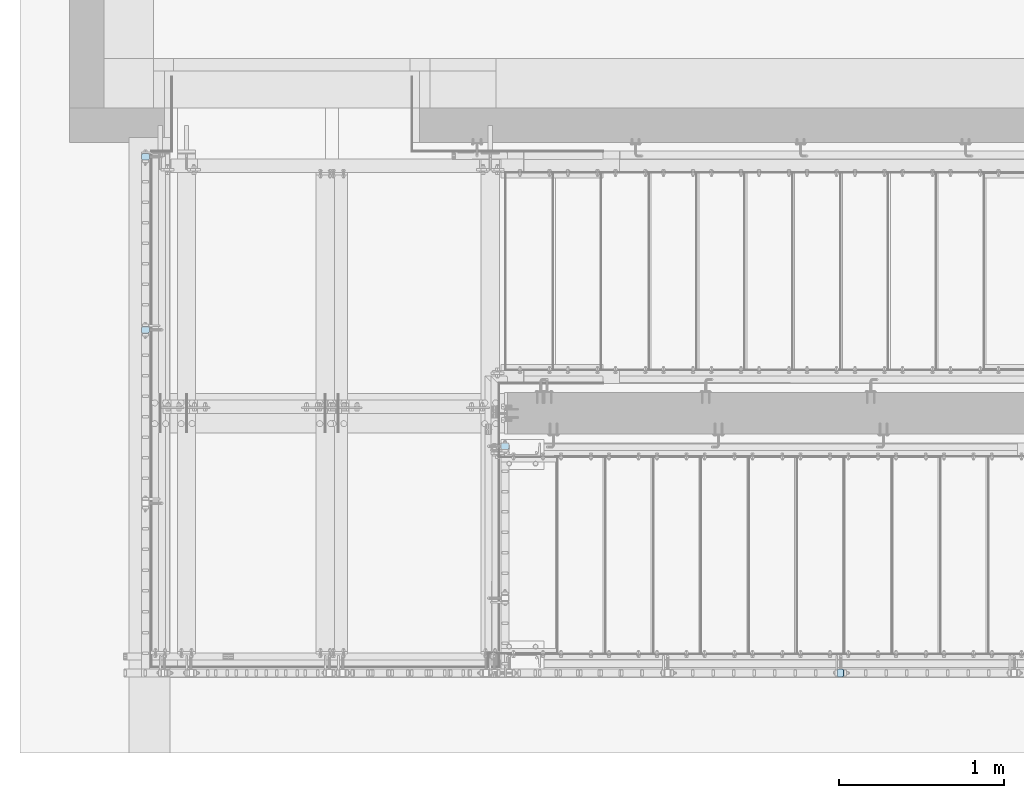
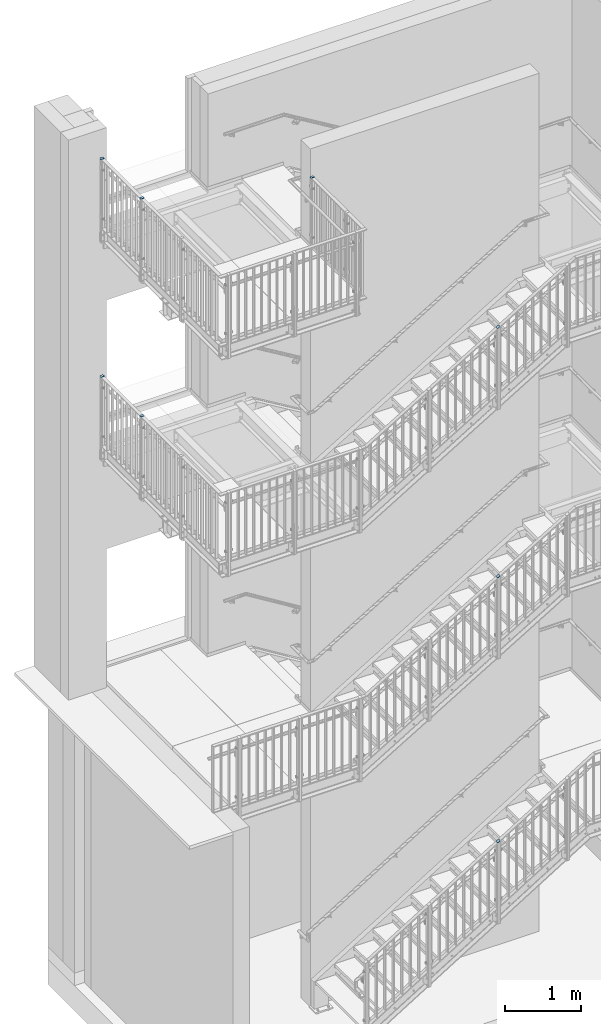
# One storey, part 70 of 410: 8 plates, 32 openings.
"""IFC2X3 building model written with IfcOpenShell, lengths in millimetres."""

from ifc_helpers import new_model, entity, si_unit, converted_unit, point, frame, frame_2d, origin, origin_with_axes, place, context, project, spatial, polyline, circle_curve, line_curve, trimmed, segment, composite_curve, outline, extrude, material, layer, layer_set, element, save


model = new_model("IFC2X3")

# Units and contexts
model_context = context("Model", 3, precision=1e-09, world=origin_with_axes())
ifc_project = project(units=[si_unit("LENGTHUNIT", "METRE", prefix="MILLI"), si_unit("AREAUNIT", "SQUARE_METRE"), si_unit("VOLUMEUNIT", "CUBIC_METRE"), converted_unit("PLANEANGLEUNIT", "DEGREE", entity("IfcPlaneAngleMeasure", 0.01745329), si_unit("PLANEANGLEUNIT", "RADIAN"), dimensions=[0, 0, 0, 0, 0, 0, 0])], contexts=[model_context])

# Site, building, storey
site_placement = place(None, origin_with_axes())
site = spatial("IfcSite", under=ifc_project, at=site_placement, Name="mKR Teilneubau & Sanierung BA1 - Ostfildern", CompositionType="ELEMENT")
building_placement = place(site_placement, origin_with_axes())
building = spatial("IfcBuilding", under=site, at=building_placement, Name="Struktur 1", CompositionType="ELEMENT")
storey_placement = place(building_placement, origin_with_axes())
storey = spatial("IfcBuildingStorey", under=building, at=storey_placement, Name="Default Storey", CompositionType="ELEMENT", Elevation=0.0)

# Plate, openings
ifc_material = material(Name="S235JR")
ifc_layer = layer(ifc_material, 5.0)
ifc_layer_set = layer_set([ifc_layer], Name="S235JR")
plate_1_placement = place(None, frame((-3899.9485317, 17484.999999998, 5095.0), z_axis=(0.0, 0.0, 1.0), x_axis=(1.0, 0.0, 0.0)))
plate_1 = element("IfcPlate", 1, at=plate_1_placement, inside=storey, material=ifc_layer_set, Name="-", ObjectType="-", context=model_context, shape_type="SweptSolid", body=[
    extrude(outline(polyline([(-25.0, -20.0), (25.0, -20.0), (25.0, 20.0), (-25.0, 20.0), (-25.0, -20.0)])), origin_with_axes(), (0.0, 0.0, 1.0), 5.0),
])
opening_1_placement = place(plate_1_placement, frame((0.0, 0.0, -0.01), z_axis=(0.0, 0.0, 1.0), x_axis=(1.0, 0.0, 0.0)))
element("IfcOpeningElement", 2, at=opening_1_placement, cuts=plate_1, ObjectType="Opening", context=model_context, shape_type="SweptSolid", body=[
    extrude(outline(composite_curve([segment(trimmed(line_curve((25.0, -20.0), (0.0, 1.0), 8.0), [point((25.0, -20.0))], [point((25.0, -12.0))], True, "CARTESIAN"), True, "CONTINUOUS"), segment(trimmed(circle_curve(frame_2d((17.0, -12.0), x_axis=(-1.0, 0.0)), 8.0), [point((25.0, -12.0))], [point((17.0, -20.0))], False, "CARTESIAN"), True, "CONTINUOUS"), segment(trimmed(line_curve((17.0, -20.0), (1.0, 0.0), 8.0), [point((17.0, -20.0))], [point((25.0, -20.0))], True, "CARTESIAN"), True, "CONTINUOUS")], self_intersect=False)), origin(), (0.0, 0.0, 1.0), 5.02),
])
opening_2_placement = place(plate_1_placement, frame((0.0, 0.0, -0.01), z_axis=(0.0, 0.0, 1.0), x_axis=(1.0, 0.0, 0.0)))
element("IfcOpeningElement", 3, at=opening_2_placement, cuts=plate_1, ObjectType="Opening", context=model_context, shape_type="SweptSolid", body=[
    extrude(outline(composite_curve([segment(trimmed(line_curve((25.0, 20.0), (-1.0, 0.0), 8.0), [point((25.0, 20.0))], [point((17.0, 20.0))], True, "CARTESIAN"), True, "CONTINUOUS"), segment(trimmed(circle_curve(frame_2d((17.0, 12.0), x_axis=(-1.0, 0.0)), 8.0), [point((17.0, 20.0))], [point((25.0, 12.0))], False, "CARTESIAN"), True, "CONTINUOUS"), segment(trimmed(line_curve((25.0, 12.0), (0.0, 1.0), 8.0), [point((25.0, 12.0))], [point((25.0, 20.0))], True, "CARTESIAN"), True, "CONTINUOUS")], self_intersect=False)), origin(), (0.0, 0.0, 1.0), 5.02),
])
opening_3_placement = place(plate_1_placement, frame((0.0, 0.0, -0.01), z_axis=(0.0, 0.0, 1.0), x_axis=(1.0, 0.0, 0.0)))
element("IfcOpeningElement", 4, at=opening_3_placement, cuts=plate_1, ObjectType="Opening", context=model_context, shape_type="SweptSolid", body=[
    extrude(outline(composite_curve([segment(trimmed(line_curve((-25.0, -20.0), (1.0, 0.0), 8.0), [point((-25.0, -20.0))], [point((-17.0, -20.0))], True, "CARTESIAN"), True, "CONTINUOUS"), segment(trimmed(circle_curve(frame_2d((-17.0, -12.0), x_axis=(-1.0, 0.0)), 8.0), [point((-17.0, -20.0))], [point((-25.0, -12.0))], False, "CARTESIAN"), True, "CONTINUOUS"), segment(trimmed(line_curve((-25.0, -12.0), (0.0, -1.0), 8.0), [point((-25.0, -12.0))], [point((-25.0, -20.0))], True, "CARTESIAN"), True, "CONTINUOUS")], self_intersect=False)), origin(), (0.0, 0.0, 1.0), 5.02),
])
opening_4_placement = place(plate_1_placement, frame((0.0, 0.0, -0.01), z_axis=(0.0, 0.0, 1.0), x_axis=(1.0, 0.0, 0.0)))
element("IfcOpeningElement", 5, at=opening_4_placement, cuts=plate_1, ObjectType="Opening", context=model_context, shape_type="SweptSolid", body=[
    extrude(outline(composite_curve([segment(trimmed(line_curve((-25.0, 20.0), (0.0, -1.0), 8.0), [point((-25.0, 20.0))], [point((-25.0, 12.0))], True, "CARTESIAN"), True, "CONTINUOUS"), segment(trimmed(circle_curve(frame_2d((-17.0, 12.0), x_axis=(-1.0, 0.0)), 8.0), [point((-25.0, 12.0))], [point((-17.0, 20.0))], False, "CARTESIAN"), True, "CONTINUOUS"), segment(trimmed(line_curve((-17.0, 20.0), (-1.0, 0.0), 8.0), [point((-17.0, 20.0))], [point((-25.0, 20.0))], True, "CARTESIAN"), True, "CONTINUOUS")], self_intersect=False)), origin(), (0.0, 0.0, 1.0), 5.02),
])

plate_2_placement = place(None, frame((-3899.9485317, 18534.999999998, 5095.0), z_axis=(0.0, 0.0, 1.0), x_axis=(1.0, 0.0, 0.0)))
plate_2 = element("IfcPlate", 6, at=plate_2_placement, inside=storey, material=ifc_layer_set, Name="-", ObjectType="-", context=model_context, shape_type="SweptSolid", body=[
    extrude(outline(polyline([(-25.0, -20.0), (25.0, -20.0), (25.0, 20.0), (-25.0, 20.0), (-25.0, -20.0)])), origin_with_axes(), (0.0, 0.0, 1.0), 5.0),
])
opening_5_placement = place(plate_2_placement, frame((0.0, 0.0, -0.01), z_axis=(0.0, 0.0, 1.0), x_axis=(1.0, 0.0, 0.0)))
element("IfcOpeningElement", 7, at=opening_5_placement, cuts=plate_2, ObjectType="Opening", context=model_context, shape_type="SweptSolid", body=[
    extrude(outline(composite_curve([segment(trimmed(line_curve((25.0, 20.0), (-1.0, 0.0), 8.0), [point((25.0, 20.0))], [point((17.0, 20.0))], True, "CARTESIAN"), True, "CONTINUOUS"), segment(trimmed(circle_curve(frame_2d((17.0, 12.0), x_axis=(-1.0, 0.0)), 8.0), [point((17.0, 20.0))], [point((25.0, 12.0))], False, "CARTESIAN"), True, "CONTINUOUS"), segment(trimmed(line_curve((25.0, 12.0), (0.0, 1.0), 8.0), [point((25.0, 12.0))], [point((25.0, 20.0))], True, "CARTESIAN"), True, "CONTINUOUS")], self_intersect=False)), origin(), (0.0, 0.0, 1.0), 5.02),
])
opening_6_placement = place(plate_2_placement, frame((0.0, 0.0, -0.01), z_axis=(0.0, 0.0, 1.0), x_axis=(1.0, 0.0, 0.0)))
element("IfcOpeningElement", 8, at=opening_6_placement, cuts=plate_2, ObjectType="Opening", context=model_context, shape_type="SweptSolid", body=[
    extrude(outline(composite_curve([segment(trimmed(line_curve((25.0, -20.0), (0.0, 1.0), 8.0), [point((25.0, -20.0))], [point((25.0, -12.0))], True, "CARTESIAN"), True, "CONTINUOUS"), segment(trimmed(circle_curve(frame_2d((17.0, -12.0), x_axis=(-1.0, 0.0)), 8.0), [point((25.0, -12.0))], [point((17.0, -20.0))], False, "CARTESIAN"), True, "CONTINUOUS"), segment(trimmed(line_curve((17.0, -20.0), (1.0, 0.0), 8.0), [point((17.0, -20.0))], [point((25.0, -20.0))], True, "CARTESIAN"), True, "CONTINUOUS")], self_intersect=False)), origin(), (0.0, 0.0, 1.0), 5.02),
])
opening_7_placement = place(plate_2_placement, frame((0.0, 0.0, -0.01), z_axis=(0.0, 0.0, 1.0), x_axis=(1.0, 0.0, 0.0)))
element("IfcOpeningElement", 9, at=opening_7_placement, cuts=plate_2, ObjectType="Opening", context=model_context, shape_type="SweptSolid", body=[
    extrude(outline(composite_curve([segment(trimmed(line_curve((-25.0, -20.0), (1.0, 0.0), 8.0), [point((-25.0, -20.0))], [point((-17.0, -20.0))], True, "CARTESIAN"), True, "CONTINUOUS"), segment(trimmed(circle_curve(frame_2d((-17.0, -12.0), x_axis=(-1.0, 0.0)), 8.0), [point((-17.0, -20.0))], [point((-25.0, -12.0))], False, "CARTESIAN"), True, "CONTINUOUS"), segment(trimmed(line_curve((-25.0, -12.0), (0.0, -1.0), 8.0), [point((-25.0, -12.0))], [point((-25.0, -20.0))], True, "CARTESIAN"), True, "CONTINUOUS")], self_intersect=False)), origin(), (0.0, 0.0, 1.0), 5.02),
])
opening_8_placement = place(plate_2_placement, frame((0.0, 0.0, -0.01), z_axis=(0.0, 0.0, 1.0), x_axis=(1.0, 0.0, 0.0)))
element("IfcOpeningElement", 10, at=opening_8_placement, cuts=plate_2, ObjectType="Opening", context=model_context, shape_type="SweptSolid", body=[
    extrude(outline(composite_curve([segment(trimmed(line_curve((-25.0, 20.0), (0.0, -1.0), 8.0), [point((-25.0, 20.0))], [point((-25.0, 12.0))], True, "CARTESIAN"), True, "CONTINUOUS"), segment(trimmed(circle_curve(frame_2d((-17.0, 12.0), x_axis=(-1.0, 0.0)), 8.0), [point((-25.0, 12.0))], [point((-17.0, 20.0))], False, "CARTESIAN"), True, "CONTINUOUS"), segment(trimmed(line_curve((-17.0, 20.0), (-1.0, 0.0), 8.0), [point((-17.0, 20.0))], [point((-25.0, 20.0))], True, "CARTESIAN"), True, "CONTINUOUS")], self_intersect=False)), origin(), (0.0, 0.0, 1.0), 5.02),
])

plate_3_placement = place(None, frame((-3899.9485317, 18534.999999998, 8595.0), z_axis=(0.0, 0.0, 1.0), x_axis=(1.0, 0.0, 0.0)))
plate_3 = element("IfcPlate", 11, at=plate_3_placement, inside=storey, material=ifc_layer_set, Name="-", ObjectType="-", context=model_context, shape_type="SweptSolid", body=[
    extrude(outline(polyline([(-25.0, -20.0), (25.0, -20.0), (25.0, 20.0), (-25.0, 20.0), (-25.0, -20.0)])), origin_with_axes(), (0.0, 0.0, 1.0), 5.0),
])
opening_9_placement = place(plate_3_placement, frame((0.0, 0.0, -0.01), z_axis=(0.0, 0.0, 1.0), x_axis=(1.0, 0.0, 0.0)))
element("IfcOpeningElement", 12, at=opening_9_placement, cuts=plate_3, ObjectType="Opening", context=model_context, shape_type="SweptSolid", body=[
    extrude(outline(composite_curve([segment(trimmed(line_curve((-25.0, 20.0), (0.0, -1.0), 8.0), [point((-25.0, 20.0))], [point((-25.0, 12.0))], True, "CARTESIAN"), True, "CONTINUOUS"), segment(trimmed(circle_curve(frame_2d((-17.0, 12.0), x_axis=(-1.0, 0.0)), 8.0), [point((-25.0, 12.0))], [point((-17.0, 20.0))], False, "CARTESIAN"), True, "CONTINUOUS"), segment(trimmed(line_curve((-17.0, 20.0), (-1.0, 0.0), 8.0), [point((-17.0, 20.0))], [point((-25.0, 20.0))], True, "CARTESIAN"), True, "CONTINUOUS")], self_intersect=False)), origin(), (0.0, 0.0, 1.0), 5.02),
])
opening_10_placement = place(plate_3_placement, frame((0.0, 0.0, -0.01), z_axis=(0.0, 0.0, 1.0), x_axis=(1.0, 0.0, 0.0)))
element("IfcOpeningElement", 13, at=opening_10_placement, cuts=plate_3, ObjectType="Opening", context=model_context, shape_type="SweptSolid", body=[
    extrude(outline(composite_curve([segment(trimmed(line_curve((25.0, 20.0), (-1.0, 0.0), 8.0), [point((25.0, 20.0))], [point((17.0, 20.0))], True, "CARTESIAN"), True, "CONTINUOUS"), segment(trimmed(circle_curve(frame_2d((17.0, 12.0), x_axis=(-1.0, 0.0)), 8.0), [point((17.0, 20.0))], [point((25.0, 12.0))], False, "CARTESIAN"), True, "CONTINUOUS"), segment(trimmed(line_curve((25.0, 12.0), (0.0, 1.0), 8.0), [point((25.0, 12.0))], [point((25.0, 20.0))], True, "CARTESIAN"), True, "CONTINUOUS")], self_intersect=False)), origin(), (0.0, 0.0, 1.0), 5.02),
])
opening_11_placement = place(plate_3_placement, frame((0.0, 0.0, -0.01), z_axis=(0.0, 0.0, 1.0), x_axis=(1.0, 0.0, 0.0)))
element("IfcOpeningElement", 14, at=opening_11_placement, cuts=plate_3, ObjectType="Opening", context=model_context, shape_type="SweptSolid", body=[
    extrude(outline(composite_curve([segment(trimmed(line_curve((25.0, -20.0), (0.0, 1.0), 8.0), [point((25.0, -20.0))], [point((25.0, -12.0))], True, "CARTESIAN"), True, "CONTINUOUS"), segment(trimmed(circle_curve(frame_2d((17.0, -12.0), x_axis=(-1.0, 0.0)), 8.0), [point((25.0, -12.0))], [point((17.0, -20.0))], False, "CARTESIAN"), True, "CONTINUOUS"), segment(trimmed(line_curve((17.0, -20.0), (1.0, 0.0), 8.0), [point((17.0, -20.0))], [point((25.0, -20.0))], True, "CARTESIAN"), True, "CONTINUOUS")], self_intersect=False)), origin(), (0.0, 0.0, 1.0), 5.02),
])
opening_12_placement = place(plate_3_placement, frame((0.0, 0.0, -0.01), z_axis=(0.0, 0.0, 1.0), x_axis=(1.0, 0.0, 0.0)))
element("IfcOpeningElement", 15, at=opening_12_placement, cuts=plate_3, ObjectType="Opening", context=model_context, shape_type="SweptSolid", body=[
    extrude(outline(composite_curve([segment(trimmed(line_curve((-25.0, -20.0), (1.0, 0.0), 8.0), [point((-25.0, -20.0))], [point((-17.0, -20.0))], True, "CARTESIAN"), True, "CONTINUOUS"), segment(trimmed(circle_curve(frame_2d((-17.0, -12.0), x_axis=(-1.0, 0.0)), 8.0), [point((-17.0, -20.0))], [point((-25.0, -12.0))], False, "CARTESIAN"), True, "CONTINUOUS"), segment(trimmed(line_curve((-25.0, -12.0), (0.0, -1.0), 8.0), [point((-25.0, -12.0))], [point((-25.0, -20.0))], True, "CARTESIAN"), True, "CONTINUOUS")], self_intersect=False)), origin(), (0.0, 0.0, 1.0), 5.02),
])

plate_4_placement = place(None, frame((-3899.9485317, 17484.999999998, 8595.0), z_axis=(0.0, 0.0, 1.0), x_axis=(1.0, 0.0, 0.0)))
plate_4 = element("IfcPlate", 16, at=plate_4_placement, inside=storey, material=ifc_layer_set, Name="-", ObjectType="-", context=model_context, shape_type="SweptSolid", body=[
    extrude(outline(polyline([(-25.0, -20.0), (25.0, -20.0), (25.0, 20.0), (-25.0, 20.0), (-25.0, -20.0)])), origin_with_axes(), (0.0, 0.0, 1.0), 5.0),
])
opening_13_placement = place(plate_4_placement, frame((0.0, 0.0, -0.01), z_axis=(0.0, 0.0, 1.0), x_axis=(1.0, 0.0, 0.0)))
element("IfcOpeningElement", 17, at=opening_13_placement, cuts=plate_4, ObjectType="Opening", context=model_context, shape_type="SweptSolid", body=[
    extrude(outline(composite_curve([segment(trimmed(line_curve((25.0, 20.0), (-1.0, 0.0), 8.0), [point((25.0, 20.0))], [point((17.0, 20.0))], True, "CARTESIAN"), True, "CONTINUOUS"), segment(trimmed(circle_curve(frame_2d((17.0, 12.0), x_axis=(-1.0, 0.0)), 8.0), [point((17.0, 20.0))], [point((25.0, 12.0))], False, "CARTESIAN"), True, "CONTINUOUS"), segment(trimmed(line_curve((25.0, 12.0), (0.0, 1.0), 8.0), [point((25.0, 12.0))], [point((25.0, 20.0))], True, "CARTESIAN"), True, "CONTINUOUS")], self_intersect=False)), origin(), (0.0, 0.0, 1.0), 5.02),
])
opening_14_placement = place(plate_4_placement, frame((0.0, 0.0, -0.01), z_axis=(0.0, 0.0, 1.0), x_axis=(1.0, 0.0, 0.0)))
element("IfcOpeningElement", 18, at=opening_14_placement, cuts=plate_4, ObjectType="Opening", context=model_context, shape_type="SweptSolid", body=[
    extrude(outline(composite_curve([segment(trimmed(line_curve((25.0, -20.0), (0.0, 1.0), 8.0), [point((25.0, -20.0))], [point((25.0, -12.0))], True, "CARTESIAN"), True, "CONTINUOUS"), segment(trimmed(circle_curve(frame_2d((17.0, -12.0), x_axis=(-1.0, 0.0)), 8.0), [point((25.0, -12.0))], [point((17.0, -20.0))], False, "CARTESIAN"), True, "CONTINUOUS"), segment(trimmed(line_curve((17.0, -20.0), (1.0, 0.0), 8.0), [point((17.0, -20.0))], [point((25.0, -20.0))], True, "CARTESIAN"), True, "CONTINUOUS")], self_intersect=False)), origin(), (0.0, 0.0, 1.0), 5.02),
])
opening_15_placement = place(plate_4_placement, frame((0.0, 0.0, -0.01), z_axis=(0.0, 0.0, 1.0), x_axis=(1.0, 0.0, 0.0)))
element("IfcOpeningElement", 19, at=opening_15_placement, cuts=plate_4, ObjectType="Opening", context=model_context, shape_type="SweptSolid", body=[
    extrude(outline(composite_curve([segment(trimmed(line_curve((-25.0, -20.0), (1.0, 0.0), 8.0), [point((-25.0, -20.0))], [point((-17.0, -20.0))], True, "CARTESIAN"), True, "CONTINUOUS"), segment(trimmed(circle_curve(frame_2d((-17.0, -12.0), x_axis=(-1.0, 0.0)), 8.0), [point((-17.0, -20.0))], [point((-25.0, -12.0))], False, "CARTESIAN"), True, "CONTINUOUS"), segment(trimmed(line_curve((-25.0, -12.0), (0.0, -1.0), 8.0), [point((-25.0, -12.0))], [point((-25.0, -20.0))], True, "CARTESIAN"), True, "CONTINUOUS")], self_intersect=False)), origin(), (0.0, 0.0, 1.0), 5.02),
])
opening_16_placement = place(plate_4_placement, frame((0.0, 0.0, -0.01), z_axis=(0.0, 0.0, 1.0), x_axis=(1.0, 0.0, 0.0)))
element("IfcOpeningElement", 20, at=opening_16_placement, cuts=plate_4, ObjectType="Opening", context=model_context, shape_type="SweptSolid", body=[
    extrude(outline(composite_curve([segment(trimmed(line_curve((-25.0, 20.0), (0.0, -1.0), 8.0), [point((-25.0, 20.0))], [point((-25.0, 12.0))], True, "CARTESIAN"), True, "CONTINUOUS"), segment(trimmed(circle_curve(frame_2d((-17.0, 12.0), x_axis=(-1.0, 0.0)), 8.0), [point((-25.0, 12.0))], [point((-17.0, 20.0))], False, "CARTESIAN"), True, "CONTINUOUS"), segment(trimmed(line_curve((-17.0, 20.0), (-1.0, 0.0), 8.0), [point((-17.0, 20.0))], [point((-25.0, 20.0))], True, "CARTESIAN"), True, "CONTINUOUS")], self_intersect=False)), origin(), (0.0, 0.0, 1.0), 5.02),
])

plate_5_placement = place(None, frame((-1720.0485317, 16780.0, 8595.0), z_axis=(0.0, 0.0, 1.0), x_axis=(-1.0, 0.0, 0.0)))
plate_5 = element("IfcPlate", 21, at=plate_5_placement, inside=storey, material=ifc_layer_set, Name="-", ObjectType="-", context=model_context, shape_type="SweptSolid", body=[
    extrude(outline(polyline([(-25.0, -20.0), (25.0, -20.0), (25.0, 20.0), (-25.0, 20.0), (-25.0, -20.0)])), origin_with_axes(), (0.0, 0.0, 1.0), 5.0),
])
opening_17_placement = place(plate_5_placement, frame((0.0, 0.0, -0.01), z_axis=(0.0, 0.0, 1.0), x_axis=(1.0, 0.0, 0.0)))
element("IfcOpeningElement", 22, at=opening_17_placement, cuts=plate_5, ObjectType="Opening", context=model_context, shape_type="SweptSolid", body=[
    extrude(outline(composite_curve([segment(trimmed(line_curve((25.0, -20.0), (0.0, 1.0), 8.0), [point((25.0, -20.0))], [point((25.0, -12.0))], True, "CARTESIAN"), True, "CONTINUOUS"), segment(trimmed(circle_curve(frame_2d((17.0, -12.0), x_axis=(-1.0, 0.0)), 8.0), [point((25.0, -12.0))], [point((17.0, -20.0))], False, "CARTESIAN"), True, "CONTINUOUS"), segment(trimmed(line_curve((17.0, -20.0), (1.0, 0.0), 8.0), [point((17.0, -20.0))], [point((25.0, -20.0))], True, "CARTESIAN"), True, "CONTINUOUS")], self_intersect=False)), origin(), (0.0, 0.0, 1.0), 5.02),
])
opening_18_placement = place(plate_5_placement, frame((0.0, 0.0, -0.01), z_axis=(0.0, 0.0, 1.0), x_axis=(1.0, 0.0, 0.0)))
element("IfcOpeningElement", 23, at=opening_18_placement, cuts=plate_5, ObjectType="Opening", context=model_context, shape_type="SweptSolid", body=[
    extrude(outline(composite_curve([segment(trimmed(line_curve((-25.0, -20.0), (1.0, 0.0), 8.0), [point((-25.0, -20.0))], [point((-17.0, -20.0))], True, "CARTESIAN"), True, "CONTINUOUS"), segment(trimmed(circle_curve(frame_2d((-17.0, -12.0), x_axis=(-1.0, 0.0)), 8.0), [point((-17.0, -20.0))], [point((-25.0, -12.0))], False, "CARTESIAN"), True, "CONTINUOUS"), segment(trimmed(line_curve((-25.0, -12.0), (0.0, -1.0), 8.0), [point((-25.0, -12.0))], [point((-25.0, -20.0))], True, "CARTESIAN"), True, "CONTINUOUS")], self_intersect=False)), origin(), (0.0, 0.0, 1.0), 5.02),
])
opening_19_placement = place(plate_5_placement, frame((0.0, 0.0, -0.01), z_axis=(0.0, 0.0, 1.0), x_axis=(1.0, 0.0, 0.0)))
element("IfcOpeningElement", 24, at=opening_19_placement, cuts=plate_5, ObjectType="Opening", context=model_context, shape_type="SweptSolid", body=[
    extrude(outline(composite_curve([segment(trimmed(line_curve((-25.0, 20.0), (0.0, -1.0), 8.0), [point((-25.0, 20.0))], [point((-25.0, 12.0))], True, "CARTESIAN"), True, "CONTINUOUS"), segment(trimmed(circle_curve(frame_2d((-17.0, 12.0), x_axis=(-1.0, 0.0)), 8.0), [point((-25.0, 12.0))], [point((-17.0, 20.0))], False, "CARTESIAN"), True, "CONTINUOUS"), segment(trimmed(line_curve((-17.0, 20.0), (-1.0, 0.0), 8.0), [point((-17.0, 20.0))], [point((-25.0, 20.0))], True, "CARTESIAN"), True, "CONTINUOUS")], self_intersect=False)), origin(), (0.0, 0.0, 1.0), 5.02),
])
opening_20_placement = place(plate_5_placement, frame((0.0, 0.0, -0.01), z_axis=(0.0, 0.0, 1.0), x_axis=(1.0, 0.0, 0.0)))
element("IfcOpeningElement", 25, at=opening_20_placement, cuts=plate_5, ObjectType="Opening", context=model_context, shape_type="SweptSolid", body=[
    extrude(outline(composite_curve([segment(trimmed(line_curve((25.0, 20.0), (-1.0, 0.0), 8.0), [point((25.0, 20.0))], [point((17.0, 20.0))], True, "CARTESIAN"), True, "CONTINUOUS"), segment(trimmed(circle_curve(frame_2d((17.0, 12.0), x_axis=(-1.0, 0.0)), 8.0), [point((17.0, 20.0))], [point((25.0, 12.0))], False, "CARTESIAN"), True, "CONTINUOUS"), segment(trimmed(line_curve((25.0, 12.0), (0.0, 1.0), 8.0), [point((25.0, 12.0))], [point((25.0, 20.0))], True, "CARTESIAN"), True, "CONTINUOUS")], self_intersect=False)), origin(), (0.0, 0.0, 1.0), 5.02),
])

plate_6_placement = place(None, frame((314.997400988, 15405.999999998, -1951.64107921), z_axis=(-0.524817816, 0.0, 0.851214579), x_axis=(0.0, 1.0, 0.0)))
plate_6 = element("IfcPlate", 26, at=plate_6_placement, inside=storey, material=ifc_layer_set, Name="-", ObjectType="-", context=model_context, shape_type="SweptSolid", body=[
    extrude(outline(polyline([(-25.0, -23.5), (25.0, -23.5), (25.0, 23.5), (-25.0, 23.5), (-25.0, -23.5)])), origin_with_axes(), (0.0, 0.0, 1.0), 5.0),
])
opening_21_placement = place(plate_6_placement, frame((0.0, -3.5, -0.01), z_axis=(0.0, 0.0, 1.0), x_axis=(1.0, 0.0, 0.0)))
element("IfcOpeningElement", 27, at=opening_21_placement, cuts=plate_6, ObjectType="Opening", context=model_context, shape_type="SweptSolid", body=[
    extrude(outline(composite_curve([segment(trimmed(line_curve((25.0, -20.0), (0.0, 1.0), 9.0), [point((25.0, -20.0))], [point((25.0, -11.0))], True, "CARTESIAN"), True, "CONTINUOUS"), segment(trimmed(circle_curve(frame_2d((16.0, -11.0), x_axis=(-1.0, 0.0)), 9.0), [point((25.0, -11.0))], [point((16.0, -20.0))], False, "CARTESIAN"), True, "CONTINUOUS"), segment(trimmed(line_curve((16.0, -20.0), (1.0, 0.0), 9.0), [point((16.0, -20.0))], [point((25.0, -20.0))], True, "CARTESIAN"), True, "CONTINUOUS")], self_intersect=False)), origin(), (0.0, 0.0, 1.0), 5.02),
])
opening_22_placement = place(plate_6_placement, frame((0.0, -3.5, -0.01), z_axis=(0.0, 0.0, 1.0), x_axis=(1.0, 0.0, 0.0)))
element("IfcOpeningElement", 28, at=opening_22_placement, cuts=plate_6, ObjectType="Opening", context=model_context, shape_type="SweptSolid", body=[
    extrude(outline(composite_curve([segment(trimmed(line_curve((-25.0, -20.0), (1.0, 0.0), 9.0), [point((-25.0, -20.0))], [point((-16.0, -20.0))], True, "CARTESIAN"), True, "CONTINUOUS"), segment(trimmed(circle_curve(frame_2d((-16.0, -11.0), x_axis=(-1.0, 0.0)), 9.0), [point((-16.0, -20.0))], [point((-25.0, -11.0))], False, "CARTESIAN"), True, "CONTINUOUS"), segment(trimmed(line_curve((-25.0, -11.0), (0.0, -1.0), 9.0), [point((-25.0, -11.0))], [point((-25.0, -20.0))], True, "CARTESIAN"), True, "CONTINUOUS")], self_intersect=False)), origin(), (0.0, 0.0, 1.0), 5.02),
])
opening_23_placement = place(plate_6_placement, frame((0.0, -3.5, -0.01), z_axis=(0.0, 0.0, 1.0), x_axis=(1.0, 0.0, 0.0)))
element("IfcOpeningElement", 29, at=opening_23_placement, cuts=plate_6, ObjectType="Opening", context=model_context, shape_type="SweptSolid", body=[
    extrude(outline(composite_curve([segment(trimmed(line_curve((-25.0, 27.0), (0.0, -1.0), 9.0), [point((-25.0, 27.0))], [point((-25.0, 18.0))], True, "CARTESIAN"), True, "CONTINUOUS"), segment(trimmed(circle_curve(frame_2d((-16.0, 18.0), x_axis=(-1.0, 0.0)), 9.0), [point((-25.0, 18.0))], [point((-16.0, 27.0))], False, "CARTESIAN"), True, "CONTINUOUS"), segment(trimmed(line_curve((-16.0, 27.0), (-1.0, 0.0), 9.0), [point((-16.0, 27.0))], [point((-25.0, 27.0))], True, "CARTESIAN"), True, "CONTINUOUS")], self_intersect=False)), origin(), (0.0, 0.0, 1.0), 5.02),
])
opening_24_placement = place(plate_6_placement, frame((0.0, -3.5, -0.01), z_axis=(0.0, 0.0, 1.0), x_axis=(1.0, 0.0, 0.0)))
element("IfcOpeningElement", 30, at=opening_24_placement, cuts=plate_6, ObjectType="Opening", context=model_context, shape_type="SweptSolid", body=[
    extrude(outline(composite_curve([segment(trimmed(line_curve((25.0, 27.0), (-1.0, 0.0), 9.0), [point((25.0, 27.0))], [point((16.0, 27.0))], True, "CARTESIAN"), True, "CONTINUOUS"), segment(trimmed(circle_curve(frame_2d((16.0, 18.0), x_axis=(-1.0, 0.0)), 9.0), [point((16.0, 27.0))], [point((25.0, 18.0))], False, "CARTESIAN"), True, "CONTINUOUS"), segment(trimmed(line_curve((25.0, 18.0), (0.0, 1.0), 9.0), [point((25.0, 18.0))], [point((25.0, 27.0))], True, "CARTESIAN"), True, "CONTINUOUS")], self_intersect=False)), origin(), (0.0, 0.0, 1.0), 5.02),
])

plate_7_placement = place(None, frame((314.847719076, 15405.999999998, 2305.471633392), z_axis=(-0.51430666, 0.0, 0.857606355), x_axis=(0.0, 1.0, 0.0)))
plate_7 = element("IfcPlate", 31, at=plate_7_placement, inside=storey, material=ifc_layer_set, Name="-", ObjectType="-", context=model_context, shape_type="SweptSolid", body=[
    extrude(outline(polyline([(-25.0, -23.5), (25.0, -23.5), (25.0, 23.5), (-25.0, 23.5), (-25.0, -23.5)])), origin_with_axes(), (0.0, 0.0, 1.0), 5.0),
])
opening_25_placement = place(plate_7_placement, frame((0.0, -3.5, -0.01), z_axis=(0.0, 0.0, 1.0), x_axis=(1.0, 0.0, 0.0)))
element("IfcOpeningElement", 32, at=opening_25_placement, cuts=plate_7, ObjectType="Opening", context=model_context, shape_type="SweptSolid", body=[
    extrude(outline(composite_curve([segment(trimmed(line_curve((-25.0, 27.0), (0.0, -1.0), 9.0), [point((-25.0, 27.0))], [point((-25.0, 18.0))], True, "CARTESIAN"), True, "CONTINUOUS"), segment(trimmed(circle_curve(frame_2d((-16.0, 18.0), x_axis=(-1.0, 0.0)), 9.0), [point((-25.0, 18.0))], [point((-16.0, 27.0))], False, "CARTESIAN"), True, "CONTINUOUS"), segment(trimmed(line_curve((-16.0, 27.0), (-1.0, 0.0), 9.0), [point((-16.0, 27.0))], [point((-25.0, 27.0))], True, "CARTESIAN"), True, "CONTINUOUS")], self_intersect=False)), origin(), (0.0, 0.0, 1.0), 5.02),
])
opening_26_placement = place(plate_7_placement, frame((0.0, -3.5, -0.01), z_axis=(0.0, 0.0, 1.0), x_axis=(1.0, 0.0, 0.0)))
element("IfcOpeningElement", 33, at=opening_26_placement, cuts=plate_7, ObjectType="Opening", context=model_context, shape_type="SweptSolid", body=[
    extrude(outline(composite_curve([segment(trimmed(line_curve((-25.0, -20.0), (1.0, 0.0), 9.0), [point((-25.0, -20.0))], [point((-16.0, -20.0))], True, "CARTESIAN"), True, "CONTINUOUS"), segment(trimmed(circle_curve(frame_2d((-16.0, -11.0), x_axis=(-1.0, 0.0)), 9.0), [point((-16.0, -20.0))], [point((-25.0, -11.0))], False, "CARTESIAN"), True, "CONTINUOUS"), segment(trimmed(line_curve((-25.0, -11.0), (0.0, -1.0), 9.0), [point((-25.0, -11.0))], [point((-25.0, -20.0))], True, "CARTESIAN"), True, "CONTINUOUS")], self_intersect=False)), origin(), (0.0, 0.0, 1.0), 5.02),
])
opening_27_placement = place(plate_7_placement, frame((0.0, -3.5, -0.01), z_axis=(0.0, 0.0, 1.0), x_axis=(1.0, 0.0, 0.0)))
element("IfcOpeningElement", 34, at=opening_27_placement, cuts=plate_7, ObjectType="Opening", context=model_context, shape_type="SweptSolid", body=[
    extrude(outline(composite_curve([segment(trimmed(line_curve((25.0, -20.0), (0.0, 1.0), 9.0), [point((25.0, -20.0))], [point((25.0, -11.0))], True, "CARTESIAN"), True, "CONTINUOUS"), segment(trimmed(circle_curve(frame_2d((16.0, -11.0), x_axis=(-1.0, 0.0)), 9.0), [point((25.0, -11.0))], [point((16.0, -20.0))], False, "CARTESIAN"), True, "CONTINUOUS"), segment(trimmed(line_curve((16.0, -20.0), (1.0, 0.0), 9.0), [point((16.0, -20.0))], [point((25.0, -20.0))], True, "CARTESIAN"), True, "CONTINUOUS")], self_intersect=False)), origin(), (0.0, 0.0, 1.0), 5.02),
])
opening_28_placement = place(plate_7_placement, frame((0.0, -3.5, -0.01), z_axis=(0.0, 0.0, 1.0), x_axis=(1.0, 0.0, 0.0)))
element("IfcOpeningElement", 35, at=opening_28_placement, cuts=plate_7, ObjectType="Opening", context=model_context, shape_type="SweptSolid", body=[
    extrude(outline(composite_curve([segment(trimmed(line_curve((25.0, 27.0), (-1.0, 0.0), 9.0), [point((25.0, 27.0))], [point((16.0, 27.0))], True, "CARTESIAN"), True, "CONTINUOUS"), segment(trimmed(circle_curve(frame_2d((16.0, 18.0), x_axis=(-1.0, 0.0)), 9.0), [point((16.0, 27.0))], [point((25.0, 18.0))], False, "CARTESIAN"), True, "CONTINUOUS"), segment(trimmed(line_curve((25.0, 18.0), (0.0, 1.0), 9.0), [point((25.0, 18.0))], [point((25.0, 27.0))], True, "CARTESIAN"), True, "CONTINUOUS")], self_intersect=False)), origin(), (0.0, 0.0, 1.0), 5.02),
])

plate_8_placement = place(None, frame((314.881058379, 15405.999999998, 6313.052732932), z_axis=(-0.516664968, 0.0, 0.856187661), x_axis=(0.0, 1.0, 0.0)))
plate_8 = element("IfcPlate", 36, at=plate_8_placement, inside=storey, material=ifc_layer_set, Name="-", ObjectType="-", context=model_context, shape_type="SweptSolid", body=[
    extrude(outline(polyline([(-25.0, -23.5), (25.0, -23.5), (25.0, 23.5), (-25.0, 23.5), (-25.0, -23.5)])), origin_with_axes(), (0.0, 0.0, 1.0), 5.0),
])
opening_29_placement = place(plate_8_placement, frame((0.0, -3.5, -0.01), z_axis=(0.0, 0.0, 1.0), x_axis=(1.0, 0.0, 0.0)))
element("IfcOpeningElement", 37, at=opening_29_placement, cuts=plate_8, ObjectType="Opening", context=model_context, shape_type="SweptSolid", body=[
    extrude(outline(composite_curve([segment(trimmed(line_curve((25.0, 27.0), (-1.0, 0.0), 9.0), [point((25.0, 27.0))], [point((16.0, 27.0))], True, "CARTESIAN"), True, "CONTINUOUS"), segment(trimmed(circle_curve(frame_2d((16.0, 18.0), x_axis=(-1.0, 0.0)), 9.0), [point((16.0, 27.0))], [point((25.0, 18.0))], False, "CARTESIAN"), True, "CONTINUOUS"), segment(trimmed(line_curve((25.0, 18.0), (0.0, 1.0), 9.0), [point((25.0, 18.0))], [point((25.0, 27.0))], True, "CARTESIAN"), True, "CONTINUOUS")], self_intersect=False)), origin(), (0.0, 0.0, 1.0), 5.02),
])
opening_30_placement = place(plate_8_placement, frame((0.0, -3.5, -0.01), z_axis=(0.0, 0.0, 1.0), x_axis=(1.0, 0.0, 0.0)))
element("IfcOpeningElement", 38, at=opening_30_placement, cuts=plate_8, ObjectType="Opening", context=model_context, shape_type="SweptSolid", body=[
    extrude(outline(composite_curve([segment(trimmed(line_curve((25.0, -20.0), (0.0, 1.0), 9.0), [point((25.0, -20.0))], [point((25.0, -11.0))], True, "CARTESIAN"), True, "CONTINUOUS"), segment(trimmed(circle_curve(frame_2d((16.0, -11.0), x_axis=(-1.0, 0.0)), 9.0), [point((25.0, -11.0))], [point((16.0, -20.0))], False, "CARTESIAN"), True, "CONTINUOUS"), segment(trimmed(line_curve((16.0, -20.0), (1.0, 0.0), 9.0), [point((16.0, -20.0))], [point((25.0, -20.0))], True, "CARTESIAN"), True, "CONTINUOUS")], self_intersect=False)), origin(), (0.0, 0.0, 1.0), 5.02),
])
opening_31_placement = place(plate_8_placement, frame((0.0, -3.5, -0.01), z_axis=(0.0, 0.0, 1.0), x_axis=(1.0, 0.0, 0.0)))
element("IfcOpeningElement", 39, at=opening_31_placement, cuts=plate_8, ObjectType="Opening", context=model_context, shape_type="SweptSolid", body=[
    extrude(outline(composite_curve([segment(trimmed(line_curve((-25.0, -20.0), (1.0, 0.0), 9.0), [point((-25.0, -20.0))], [point((-16.0, -20.0))], True, "CARTESIAN"), True, "CONTINUOUS"), segment(trimmed(circle_curve(frame_2d((-16.0, -11.0), x_axis=(-1.0, 0.0)), 9.0), [point((-16.0, -20.0))], [point((-25.0, -11.0))], False, "CARTESIAN"), True, "CONTINUOUS"), segment(trimmed(line_curve((-25.0, -11.0), (0.0, -1.0), 9.0), [point((-25.0, -11.0))], [point((-25.0, -20.0))], True, "CARTESIAN"), True, "CONTINUOUS")], self_intersect=False)), origin(), (0.0, 0.0, 1.0), 5.02),
])
opening_32_placement = place(plate_8_placement, frame((0.0, -3.5, -0.01), z_axis=(0.0, 0.0, 1.0), x_axis=(1.0, 0.0, 0.0)))
element("IfcOpeningElement", 40, at=opening_32_placement, cuts=plate_8, ObjectType="Opening", context=model_context, shape_type="SweptSolid", body=[
    extrude(outline(composite_curve([segment(trimmed(line_curve((-25.0, 27.0), (0.0, -1.0), 9.0), [point((-25.0, 27.0))], [point((-25.0, 18.0))], True, "CARTESIAN"), True, "CONTINUOUS"), segment(trimmed(circle_curve(frame_2d((-16.0, 18.0), x_axis=(-1.0, 0.0)), 9.0), [point((-25.0, 18.0))], [point((-16.0, 27.0))], False, "CARTESIAN"), True, "CONTINUOUS"), segment(trimmed(line_curve((-16.0, 27.0), (-1.0, 0.0), 9.0), [point((-16.0, 27.0))], [point((-25.0, 27.0))], True, "CARTESIAN"), True, "CONTINUOUS")], self_intersect=False)), origin(), (0.0, 0.0, 1.0), 5.02),
])

save(model, "model.ifc")
